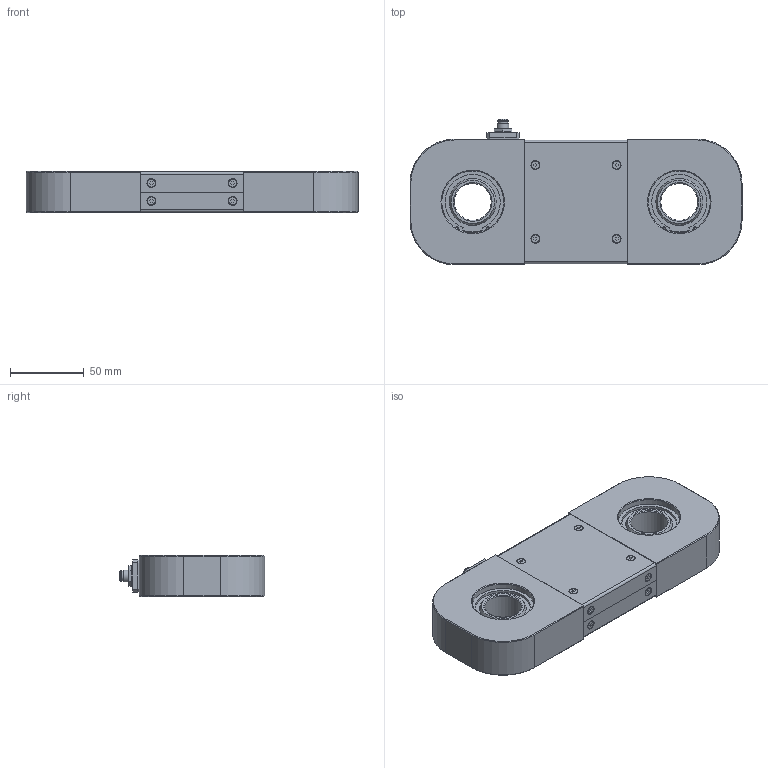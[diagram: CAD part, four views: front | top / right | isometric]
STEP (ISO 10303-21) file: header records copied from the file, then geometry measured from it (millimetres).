
FILE_DESCRIPTION(/* description */ ('Alibre Inc.'),/* implementation_level */ '2;1');
FILE_NAME(/* name */ 'export0',/* time_stamp */ '2014-07-25T16:56:07+02:00',/* author */ (''),/* organization */ (''),/* preprocessor_version */ 'ST-DEVELOPER v14',/* originating_system */ 'Alibre',/* authorisation */ '');
FILE_SCHEMA (('CONFIG_CONTROL_DESIGN'));
Length unit declared in the file: centimetre
Products named in the file (14): ID_1; ID_2; ID_3
Bounding box: 225 x 98.5 x 28 mm (x, y, z)
Volume: 443554.4 mm3; surface area: 116835 mm2
Topology: 34 solids, 34 shells, 637 faces, 1467 edges, 954 vertices
Faces by surface type: plane 346, cylinder 154, cone 107, bspline 16, torus 10, sphere 4
Full cylindrical faces by diameter (mm): 0.8 x4, 1 x4, 2 x4, 2.459 x24, 3 x20, 3.2 x8, 5 x1, 5.4 x20, 6.5 x3, 7 x1, 8 x2, 9 x2, 10 x2, 10.376 x1, 12 x2, 15 x3, 17 x1, 25 x2, 33 x2, 42 x6, 44.5 x2
Entity records: 12694 total; most frequent: CARTESIAN_POINT 3032, DIRECTION 1564, ORIENTED_EDGE 1334, AXIS2_PLACEMENT_3D 704, EDGE_CURVE 667, FACE_BOUND 601, EDGE_LOOP 584, VERTEX_POINT 522
